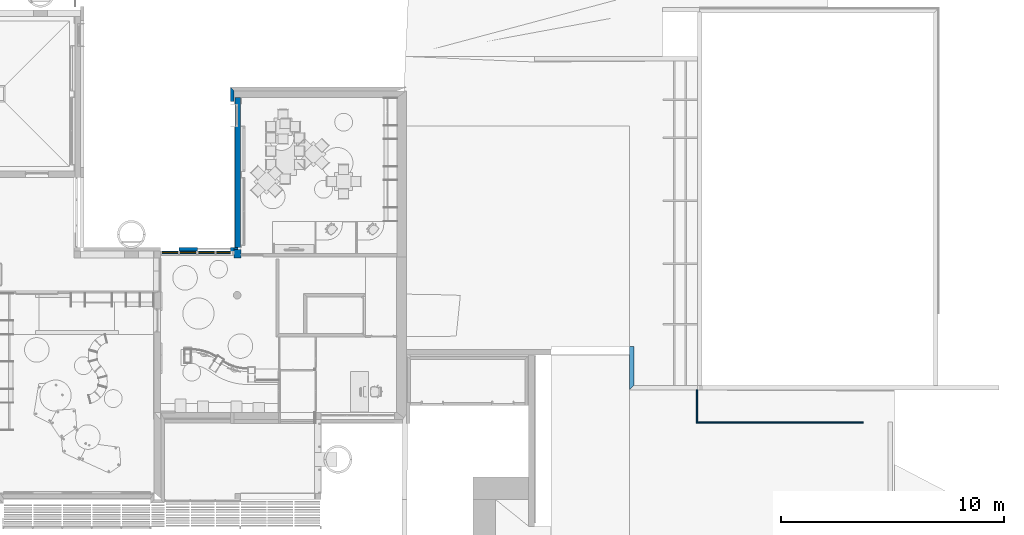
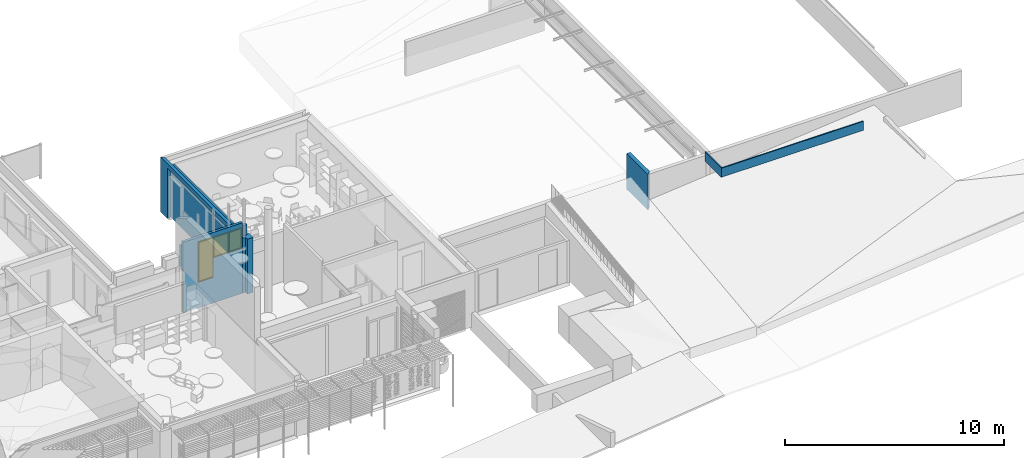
# One storey, part 26 of 64: 8 walls, 4 windows, 6 openings.
"""IFC2X3 building model written with IfcOpenShell, lengths in metres."""

from ifc_helpers import new_model, entity, si_unit, converted_unit, derived_unit, direction, frame, frame_2d, origin, origin_2d_with_axis, place, context, subcontext, project, spatial, polyline, rectangle, outline, extrude, source, transform, mapped, material, material_list, layer, layer_set, layer_usage, type_object, type_shapes, element, fill, save


model = new_model("IFC2X3")

# Units and contexts
model_context = context("Model", 3, precision=1e-05, world=origin(), true_north=direction((6.123031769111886e-17, 1.0)))
body_context = subcontext(model_context, "Body", "Model", "MODEL_VIEW")
ifc_project = project(units=[si_unit("LENGTHUNIT", "METRE"), si_unit("AREAUNIT", "SQUARE_METRE"), si_unit("VOLUMEUNIT", "CUBIC_METRE"), converted_unit("PLANEANGLEUNIT", "DEGREE", entity("IfcRatioMeasure", 0.017453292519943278), si_unit("PLANEANGLEUNIT", "RADIAN"), dimensions=[0, 0, 0, 0, 0, 0, 0]), si_unit("MASSUNIT", "GRAM", prefix="KILO"), derived_unit("MASSDENSITYUNIT", [(si_unit("MASSUNIT", "GRAM", prefix="KILO"), 1), (si_unit("LENGTHUNIT", "METRE"), -3)]), derived_unit("MOMENTOFINERTIAUNIT", [(si_unit("LENGTHUNIT", "METRE"), 4)]), si_unit("TIMEUNIT", "SECOND"), si_unit("FREQUENCYUNIT", "HERTZ"), si_unit("THERMODYNAMICTEMPERATUREUNIT", "DEGREE_CELSIUS"), derived_unit("THERMALTRANSMITTANCEUNIT", [(si_unit("MASSUNIT", "GRAM", prefix="KILO"), 1), (si_unit("THERMODYNAMICTEMPERATUREUNIT", "KELVIN"), -1), (si_unit("TIMEUNIT", "SECOND"), -3)]), derived_unit("THERMALCONDUCTANCEUNIT", [(si_unit("MASSUNIT", "GRAM", prefix="KILO"), 1), (si_unit("LENGTHUNIT", "METRE"), 1), (si_unit("THERMODYNAMICTEMPERATUREUNIT", "KELVIN"), -1), (si_unit("TIMEUNIT", "SECOND"), -3)]), derived_unit("VOLUMETRICFLOWRATEUNIT", [(si_unit("LENGTHUNIT", "METRE"), 3), (si_unit("TIMEUNIT", "SECOND"), -1)]), derived_unit("MASSFLOWRATEUNIT", [(si_unit("MASSUNIT", "GRAM", prefix="KILO"), 1), (si_unit("TIMEUNIT", "SECOND"), -1)]), derived_unit("ROTATIONALFREQUENCYUNIT", [(si_unit("TIMEUNIT", "SECOND"), -1)]), si_unit("ELECTRICCURRENTUNIT", "AMPERE"), si_unit("ELECTRICVOLTAGEUNIT", "VOLT"), si_unit("POWERUNIT", "WATT"), si_unit("FORCEUNIT", "NEWTON", prefix="KILO"), si_unit("ILLUMINANCEUNIT", "LUX"), si_unit("LUMINOUSFLUXUNIT", "LUMEN"), si_unit("LUMINOUSINTENSITYUNIT", "CANDELA"), derived_unit("USERDEFINED", [(si_unit("MASSUNIT", "GRAM", prefix="KILO"), -1), (si_unit("LENGTHUNIT", "METRE"), -2), (si_unit("TIMEUNIT", "SECOND"), 3), (si_unit("LUMINOUSFLUXUNIT", "LUMEN"), 1)]), derived_unit("USERDEFINED", [(si_unit("MASSUNIT", "GRAM", prefix="KILO"), 1), (si_unit("LENGTHUNIT", "METRE"), 3), (si_unit("TIMEUNIT", "SECOND"), -3), (si_unit("ELECTRICCURRENTUNIT", "AMPERE"), -2)]), derived_unit("USERDEFINED", [(si_unit("LENGTHUNIT", "METRE"), 2), (si_unit("TIMEUNIT", "SECOND"), -2)]), derived_unit("SOUNDPOWERUNIT", [(si_unit("MASSUNIT", "GRAM", prefix="KILO"), 1), (si_unit("LENGTHUNIT", "METRE"), 2), (si_unit("TIMEUNIT", "SECOND"), -3)]), derived_unit("SOUNDPRESSUREUNIT", [(si_unit("MASSUNIT", "GRAM", prefix="KILO"), 1), (si_unit("LENGTHUNIT", "METRE"), -1), (si_unit("TIMEUNIT", "SECOND"), -2)]), derived_unit("LINEARVELOCITYUNIT", [(si_unit("LENGTHUNIT", "METRE"), 1), (si_unit("TIMEUNIT", "SECOND"), -1)]), si_unit("PRESSUREUNIT", "PASCAL"), derived_unit("USERDEFINED", [(si_unit("LENGTHUNIT", "METRE"), -2), (si_unit("MASSUNIT", "GRAM", prefix="KILO"), 1), (si_unit("TIMEUNIT", "SECOND"), -2)]), derived_unit("LINEARFORCEUNIT", [(si_unit("MASSUNIT", "GRAM", prefix="KILO"), 1), (si_unit("LENGTHUNIT", "METRE"), 1), (si_unit("TIMEUNIT", "SECOND"), -2), (si_unit("LENGTHUNIT", "METRE"), -1)]), derived_unit("PLANARFORCEUNIT", [(si_unit("MASSUNIT", "GRAM", prefix="KILO"), 1), (si_unit("LENGTHUNIT", "METRE"), 1), (si_unit("TIMEUNIT", "SECOND"), -2), (si_unit("LENGTHUNIT", "METRE"), -2)]), derived_unit("SPECIFICHEATCAPACITYUNIT", [(si_unit("LENGTHUNIT", "METRE"), 2), (si_unit("TIMEUNIT", "SECOND"), -2), (si_unit("THERMODYNAMICTEMPERATUREUNIT", "KELVIN"), -1)]), derived_unit("VAPORPERMEABILITYUNIT", [(si_unit("TIMEUNIT", "SECOND"), 1), (si_unit("LENGTHUNIT", "METRE"), -1)]), derived_unit("DYNAMICVISCOSITYUNIT", [(si_unit("MASSUNIT", "GRAM", prefix="KILO"), 1), (si_unit("LENGTHUNIT", "METRE"), -1), (si_unit("TIMEUNIT", "SECOND"), -1)]), derived_unit("THERMALEXPANSIONCOEFFICIENTUNIT", [(si_unit("THERMODYNAMICTEMPERATUREUNIT", "KELVIN"), -1)])], contexts=[model_context])

# Site, building, storey
site_placement = place(None, origin())
site = spatial("IfcSite", under=ifc_project, at=site_placement, Name="Default", CompositionType="ELEMENT")
building_placement = place(site_placement, origin())
building = spatial("IfcBuilding", under=site, at=building_placement, CompositionType="ELEMENT")
storey_placement = place(building_placement, origin())
storey = spatial("IfcBuildingStorey", under=building, at=storey_placement, Name="REZ-DE-CHAUSSÉE", CompositionType="ELEMENT", Elevation=0.0)

# Wall
ifc_material_1 = material(Name="Appareillage - Pierre taillé")
ifc_layer_1 = layer(ifc_material_1, 0.29999999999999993)
ifc_layer_set_1 = layer_set([ifc_layer_1], Name="Mur de base:Struct. - Pierre 300")
ifc_layer_usage_1 = layer_usage(ifc_layer_set_1, "AXIS2", "NEGATIVE", 0.14999999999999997)
wall_type_1 = type_object("IfcWallType", Name="Mur de base:Struct. - Pierre 300", PredefinedType="STANDARD", material=ifc_layer_set_1)
wall_1_placement = place(storey_placement, frame((120.83075227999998, 14.997209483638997, 0.0), z_axis=(0.0, 0.0, 1.0), x_axis=(0.0, 1.0, 0.0)))
element("IfcWallStandardCase", 1, at=wall_1_placement, inside=storey, type_object=wall_type_1, material=ifc_layer_usage_1, Name="MurExt-003", ObjectType="Mur de base:Struct. - Pierre 300", context=body_context, shape_type="SweptSolid", body=[
    extrude(rectangle(XDim=0.39000000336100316, YDim=0.3000000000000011, at=frame_2d((0.19500000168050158, 0.0), x_axis=(-1.0, 0.0))), origin(), (0.0, 0.0, 1.0), 3.06),
])

# Wall, opening
ifc_material_2 = material(Name="Enduit - Jaune nature")
ifc_layer_2 = layer(ifc_material_2, 0.02)
ifc_material_3 = material(Name="Isolation - Fibre de verre")
ifc_layer_3 = layer(ifc_material_3, 0.14)
ifc_layer_set_2 = layer_set([ifc_layer_2, ifc_layer_3], Name="Mur de base:ABA ITE 140 + enduit 160")
ifc_layer_usage_2 = layer_usage(ifc_layer_set_2, "AXIS2", "NEGATIVE", 0.08)
wall_type_2 = type_object("IfcWallType", Name="Mur de base:ABA ITE 140 + enduit 160", PredefinedType="STANDARD", material=ifc_layer_set_2)
wall_2_placement = place(storey_placement, frame((120.60075227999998, 15.167209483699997, 0.0), z_axis=(0.0, 0.0, 1.0), x_axis=(0.0, 1.0, 0.0)))
wall_2 = element("IfcWallStandardCase", 2, at=wall_2_placement, inside=storey, type_object=wall_type_2, material=ifc_layer_usage_2, Name="MurExt-011", ObjectType="Mur de base:ABA ITE 140 + enduit 160", context=body_context, shape_type="SweptSolid", body=[
    extrude(outline(polyline([(0.0, -0.07999999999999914), (7.3300000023, -0.07999999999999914), (7.490000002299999, 0.07999999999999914), (0.0, 0.07999999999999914), (0.0, -0.07999999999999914)])), origin(), (0.0, 0.0, 1.0), 3.06),
])
opening_1_placement = place(wall_2_placement, origin())
element("IfcOpeningElement", 3, at=opening_1_placement, cuts=wall_2, Name="MurExt-011", ObjectType="Opening", context=body_context, shape_type="SweptSolid", body=[
    extrude(rectangle(XDim=2.8, YDim=6.560000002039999, at=origin_2d_with_axis()), frame((3.580000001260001, -0.07999999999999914, 1.4), z_axis=(0.0, 1.0, 0.0), x_axis=(0.0, 0.0, 1.0)), (0.0, 0.0, 1.0), 0.31999999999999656),
])

# Wall, openings, windows
wall_3_placement = place(storey_placement, frame((117.38075227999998, 15.387209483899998, 0.0)))
wall_3 = element("IfcWallStandardCase", 4, at=wall_3_placement, inside=storey, type_object=wall_type_2, material=ifc_layer_usage_2, Name="MurExt-022", ObjectType="Mur de base:ABA ITE 140 + enduit 160", context=body_context, shape_type="SweptSolid", body=[
    extrude(outline(polyline([(0.0, -0.07999999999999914), (3.1399999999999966, -0.07999999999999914), (3.1399999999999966, 0.07999999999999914), (0.0, 0.07999999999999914), (0.0, -0.07999999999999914)]), holes=[polyline([(3.464999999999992, 0.07999999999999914), (3.464999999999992, -0.07999999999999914), (3.299999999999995, -0.07999999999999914), (3.299999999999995, 0.07999999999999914), (3.464999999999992, 0.07999999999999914)])]), origin(), (0.0, 0.0, 1.0), 3.6299999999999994),
])
opening_2_placement = place(wall_3_placement, frame((-117.38075227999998, -15.387209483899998, 0.0)))
element("IfcOpeningElement", 5, at=opening_2_placement, cuts=wall_3, Name="MurExt-022", ObjectType="Opening", context=body_context, shape_type="SweptSolid", body=[
    extrude(rectangle(XDim=2.45, YDim=1.494999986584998, at=frame_2d((0.0, 8.659739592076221e-15), x_axis=(1.0, 0.0))), frame((119.77325227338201, 15.225609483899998, 1.225), z_axis=(0.0, 1.0, 0.0), x_axis=(0.0, 0.0, -1.0)), (0.0, 0.0, 1.0), 0.32320000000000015),
])
opening_3_placement = place(wall_3_placement, frame((-117.38075227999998, -15.387209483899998, 0.0)))
opening_3 = element("IfcOpeningElement", 6, at=opening_3_placement, cuts=wall_3, Name="MurExt-022", ObjectType="Opening", context=body_context, shape_type="SweptSolid", body=[
    extrude(rectangle(XDim=2.45, YDim=0.8349999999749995, at=frame_2d((0.0, 8.659739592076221e-15), x_axis=(1.0, 0.0))), frame((117.79825227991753, 15.225609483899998, 1.225), z_axis=(0.0, 1.0, 0.0), x_axis=(0.0, 0.0, -1.0)), (0.0, 0.0, 1.0), 0.32320000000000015),
])
opening_4_placement = place(wall_3_placement, frame((-117.38075227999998, -15.387209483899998, 0.0)))
opening_4 = element("IfcOpeningElement", 7, at=opening_4_placement, cuts=wall_3, Name="MurExt-022", ObjectType="Opening", context=body_context, shape_type="SweptSolid", body=[
    extrude(rectangle(XDim=1.1799999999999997, YDim=0.6849999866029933, at=frame_2d((-2.7755575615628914e-16, -8.659739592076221e-15), x_axis=(1.0, 0.0))), frame((120.17825227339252, 15.225609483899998, 3.0399999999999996), z_axis=(0.0, 1.0, 0.0), x_axis=(0.0, 0.0, -1.0)), (0.0, 0.0, 1.0), 0.32320000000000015),
])
opening_5_placement = place(wall_3_placement, frame((-117.38075227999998, -15.387209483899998, 0.0)))
opening_5 = element("IfcOpeningElement", 8, at=opening_5_placement, cuts=wall_3, Name="MurExt-022", ObjectType="Opening", context=body_context, shape_type="SweptSolid", body=[
    extrude(rectangle(XDim=1.1799999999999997, YDim=0.8100000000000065, at=frame_2d((-2.7755575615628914e-16, 8.659739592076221e-15), x_axis=(1.0, 0.0))), frame((119.4307522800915, 15.225609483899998, 3.0399999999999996), z_axis=(0.0, 1.0, 0.0), x_axis=(0.0, 0.0, -1.0)), (0.0, 0.0, 1.0), 0.32320000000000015),
])
opening_6_placement = place(wall_3_placement, frame((-117.38075227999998, -15.387209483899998, 0.0)))
opening_6 = element("IfcOpeningElement", 9, at=opening_6_placement, cuts=wall_3, Name="MurExt-022", ObjectType="Opening", context=body_context, shape_type="SweptSolid", body=[
    extrude(rectangle(XDim=2.2799999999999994, YDim=0.8100000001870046, at=frame_2d((1.1102230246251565e-16, 0.0), x_axis=(1.0, 0.0))), frame((118.620752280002, 15.225609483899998, 2.49), z_axis=(0.0, 1.0, 0.0), x_axis=(0.0, 0.0, -1.0)), (0.0, 0.0, 1.0), 0.32320000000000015),
])
ifc_material_4 = material(Name="Transp. - Verre clair (rapide)")
ifc_material_5 = material(Name="Peinture - Anthracite")
ifc_material_list = material_list([ifc_material_4, ifc_material_5])
window_style_1 = type_object("IfcWindowStyle", Name="Fen-004", ConstructionType="NOTDEFINED", OperationType="NOTDEFINED", ParameterTakesPrecedence=False, Sizeable=False, material=ifc_material_list)
shared_shape_1 = source(origin(), body_context, "Body", "SweptSolid", [
    extrude(rectangle(XDim=0.7749999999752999, YDim=0.009999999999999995, at=frame_2d((-7.502332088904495e-14, 1.691355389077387e-17), x_axis=(1.0, 0.0))), frame((0.4174999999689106, -0.2966000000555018, 0.0601)), (0.0, 0.0, 1.0), 2.3398999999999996),
    extrude(outline(polyline([(-1.225, -0.4174999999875), (1.225, -0.4174999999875), (1.225, 0.4174999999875), (-1.225, 0.4174999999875), (-1.225, -0.4174999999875)]), holes=[polyline([(1.165, 0.3874999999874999), (1.1650000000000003, -0.3874999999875), (-1.1749999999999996, -0.38749999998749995), (-1.1749999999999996, 0.3874999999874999), (1.165, 0.3874999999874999)])]), frame((0.41749999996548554, -0.3216000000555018, 1.225), z_axis=(0.0, 1.0, 0.0), x_axis=(0.0, 0.0, -1.0)), (0.0, 0.0, 1.0), 0.05),
])
type_shapes(window_style_1, [shared_shape_1])
window_1_placement = place(opening_3_placement, frame((117.38075227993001, 15.5488094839, 0.0)))
window_1 = element("IfcWindow", 10, at=window_1_placement, inside=storey, type_object=window_style_1, material=ifc_material_list, Name="Fen-004 53039:Fen-004 53039", ObjectType="Fen-004 53039:Fen-004 53039", OverallHeight=2.45, OverallWidth=0.8349999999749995, context=body_context, shape_type="MappedRepresentation", body=[
    mapped(shared_shape_1, transform((0.0, 0.0, 0.0), scale=1.0)),
])
fill(opening_3, window_1)
window_style_2 = type_object("IfcWindowStyle", Name="Fen-004", ConstructionType="NOTDEFINED", OperationType="NOTDEFINED", ParameterTakesPrecedence=False, Sizeable=False, material=ifc_material_list)
shared_shape_2 = source(origin(), body_context, "Body", "SweptSolid", [
    extrude(rectangle(XDim=0.6249999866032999, YDim=0.010000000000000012, at=frame_2d((-7.502332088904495e-14, 8.239936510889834e-18), x_axis=(1.0, 0.0))), frame((0.34249999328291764, -0.2966000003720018, 0.0601)), (0.0, 0.0, 1.0), 1.0698999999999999),
    extrude(outline(polyline([(-0.59, -0.3424999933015), (0.59, -0.3424999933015), (0.59, 0.3424999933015), (-0.59, 0.3424999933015), (-0.59, -0.3424999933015)]), holes=[polyline([(0.53, 0.3124999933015), (0.53, -0.3124999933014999), (-0.5399999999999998, -0.31249999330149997), (-0.5399999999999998, 0.3124999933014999), (0.53, 0.3124999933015)])]), frame((0.3424999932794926, -0.3216000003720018, 0.59), z_axis=(0.0, 1.0, 0.0), x_axis=(0.0, 0.0, -1.0)), (0.0, 0.0, 1.0), 0.05),
])
type_shapes(window_style_2, [shared_shape_2])
window_2_placement = place(opening_4_placement, frame((119.83575228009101, 15.5488094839, 2.45)))
window_2 = element("IfcWindow", 11, at=window_2_placement, inside=storey, type_object=window_style_2, material=ifc_material_list, Name="Fen-004 53221:Fen-004 53221", ObjectType="Fen-004 53221:Fen-004 53221", OverallHeight=1.1799999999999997, OverallWidth=0.6849999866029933, context=body_context, shape_type="MappedRepresentation", body=[
    mapped(shared_shape_2, transform((0.0, 0.0, 0.0), scale=1.0)),
])
fill(opening_4, window_2)
window_style_3 = type_object("IfcWindowStyle", Name="Fen-004", ConstructionType="NOTDEFINED", OperationType="NOTDEFINED", ParameterTakesPrecedence=False, Sizeable=False, material=ifc_material_list)
shared_shape_3 = source(origin(), body_context, "Body", "SweptSolid", [
    extrude(rectangle(XDim=0.7500000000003, YDim=0.009999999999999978, at=frame_2d((-7.49678097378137e-14, 0.0), x_axis=(1.0, 0.0))), frame((0.40499999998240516, -0.29660000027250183, 0.0601)), (0.0, 0.0, 1.0), 1.0698999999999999),
    extrude(outline(polyline([(-0.59, -0.40499999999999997), (0.59, -0.40499999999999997), (0.59, 0.40499999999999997), (-0.59, 0.40499999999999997), (-0.59, -0.40499999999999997)]), holes=[polyline([(0.53, 0.37500000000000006), (0.53, -0.37500000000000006), (-0.5399999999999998, -0.3750000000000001), (-0.5399999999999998, 0.37500000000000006), (0.53, 0.37500000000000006)])]), frame((0.4049999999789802, -0.32160000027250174, 0.59), z_axis=(0.0, 1.0, 0.0), x_axis=(0.0, 0.0, -1.0)), (0.0, 0.0, 1.0), 0.04999999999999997),
])
type_shapes(window_style_3, [shared_shape_3])
window_3_placement = place(opening_5_placement, frame((119.02575228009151, 15.5488094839, 2.45)))
window_3 = element("IfcWindow", 12, at=window_3_placement, inside=storey, type_object=window_style_3, material=ifc_material_list, Name="Fen-004 53403:Fen-004 53403", ObjectType="Fen-004 53403:Fen-004 53403", OverallHeight=1.1799999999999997, OverallWidth=0.8100000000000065, context=body_context, shape_type="MappedRepresentation", body=[
    mapped(shared_shape_3, transform((0.0, 0.0, 0.0), scale=1.0)),
])
fill(opening_5, window_3)
window_style_4 = type_object("IfcWindowStyle", Name="Fen-004", ConstructionType="NOTDEFINED", OperationType="NOTDEFINED", ParameterTakesPrecedence=False, Sizeable=False, material=ifc_material_list)
shared_shape_4 = source(origin(), body_context, "Body", "SweptSolid", [
    extrude(rectangle(XDim=0.7500000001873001, YDim=0.01000000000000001, at=frame_2d((-7.494005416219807e-14, 0.0), x_axis=(1.0, 0.0))), frame((0.40500000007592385, -0.2966000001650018, 0.0601)), (0.0, 0.0, 1.0), 2.1699),
    extrude(outline(polyline([(-1.14, -0.4050000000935), (1.14, -0.4050000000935), (1.14, 0.4050000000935), (-1.14, 0.4050000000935), (-1.14, -0.4050000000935)]), holes=[polyline([(1.0799999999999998, 0.37500000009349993), (1.0799999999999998, -0.37500000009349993), (-1.09, -0.3750000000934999), (-1.09, 0.37500000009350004), (1.0799999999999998, 0.37500000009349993)])]), frame((0.40500000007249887, -0.3216000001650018, 1.14), z_axis=(0.0, 1.0, 0.0), x_axis=(0.0, 0.0, -1.0)), (0.0, 0.0, 1.0), 0.05),
])
type_shapes(window_style_4, [shared_shape_4])
window_4_placement = place(opening_6_placement, frame((118.21575227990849, 15.5488094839, 1.35)))
window_4 = element("IfcWindow", 13, at=window_4_placement, inside=storey, type_object=window_style_4, material=ifc_material_list, Name="Fen-004 53585:Fen-004 53585", ObjectType="Fen-004 53585:Fen-004 53585", OverallHeight=2.28, OverallWidth=0.8100000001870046, context=body_context, shape_type="MappedRepresentation", body=[
    mapped(shared_shape_4, transform((0.0, 0.0, 0.0), scale=1.0)),
])
fill(opening_6, window_4)

# Walls
ifc_material_6 = material(Name="Béton - Parpaing (Blocs)")
ifc_layer_4 = layer(ifc_material_6, 0.2)
ifc_layer_set_3 = layer_set([ifc_layer_4], Name="Mur de base:Struct. - Parpaing béton 200")
ifc_layer_usage_3 = layer_usage(ifc_layer_set_3, "AXIS2", "NEGATIVE", 0.1)
wall_type_3 = type_object("IfcWallType", Name="Mur de base:Struct. - Parpaing béton 200", PredefinedType="STANDARD", material=ifc_layer_set_3)
wall_4_placement = place(storey_placement, frame((138.50075227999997, 9.087209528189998, 2.05), z_axis=(0.0, 0.0, 1.0), x_axis=(0.0, 1.0, 0.0)))
element("IfcWallStandardCase", 14, at=wall_4_placement, inside=storey, type_object=wall_type_3, material=ifc_layer_usage_3, Name="MurExt-021", ObjectType="Mur de base:Struct. - Parpaing béton 200", context=body_context, shape_type="SweptSolid", body=[
    extrude(outline(polyline([(1.95000002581, -0.10000000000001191), (1.95000002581, 0.0999999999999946), (0.0, 0.0999999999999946), (0.20000000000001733, -0.10000000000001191), (1.95000002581, -0.10000000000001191)])), origin(), (0.0, 0.0, 1.0), 2.0),
])
ifc_material_7 = material(Name="Bois - Pin granuleux horizontal")
ifc_layer_5 = layer(ifc_material_7, 0.031999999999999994)
ifc_material_8 = material(Name="Air - Vide d'air")
ifc_layer_6 = layer(ifc_material_8, 0.041)
ifc_material_9 = material(Name="Bois - Panneaux de particules")
ifc_layer_7 = layer(ifc_material_9, 0.022)
ifc_layer_8 = layer(ifc_material_3, 0.12)
ifc_layer_9 = layer(ifc_material_9, 0.022)
ifc_material_10 = material(Name="Plâtre - Plaques de plâtre")
ifc_layer_10 = layer(ifc_material_10, 0.013)
ifc_layer_set_4 = layer_set([ifc_layer_5, ifc_layer_6, ifc_layer_7, ifc_layer_8, ifc_layer_9, ifc_layer_10], Name="Mur de base:ABA MOB bardage 250")
ifc_layer_usage_4 = layer_usage(ifc_layer_set_4, "AXIS2", "NEGATIVE", 0.12499999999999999)
wall_type_4 = type_object("IfcWallType", Name="Mur de base:ABA MOB bardage 250", PredefinedType="STANDARD", material=ifc_layer_set_4)
wall_5_placement = place(storey_placement, frame((120.84575228, 15.467209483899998, 0.0), z_axis=(0.0, 0.0, 1.0), x_axis=(0.0, 1.0, 0.0)))
element("IfcWallStandardCase", 15, at=wall_5_placement, inside=storey, type_object=wall_type_4, material=ifc_layer_usage_4, Name="MurExt-010", ObjectType="Mur de base:ABA MOB bardage 250", context=body_context, shape_type="SweptSolid", body=[
    extrude(rectangle(XDim=6.720000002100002, YDim=0.2500000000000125, at=frame_2d((3.360000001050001, 0.0), x_axis=(-1.0, 0.0))), origin(), (0.0, 0.0, 1.0), 2.8),
])
ifc_layer_11 = layer(ifc_material_2, 0.022)
ifc_layer_12 = layer(ifc_material_3, 0.04)
ifc_layer_set_5 = layer_set([ifc_layer_11, ifc_layer_12], Name="Mur de base:ABA ITE enduit soubassements 62")
ifc_layer_usage_5 = layer_usage(ifc_layer_set_5, "AXIS2", "NEGATIVE", 0.031)
wall_type_5 = type_object("IfcWallType", Name="Mur de base:ABA ITE enduit soubassements 62", PredefinedType="STANDARD", material=ifc_layer_set_5)
wall_6_placement = place(storey_placement, frame((141.43175227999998, 7.587209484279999, 3.7499999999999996), z_axis=(0.0, 0.0, 1.0), x_axis=(0.0, 1.0, 0.0)))
element("IfcWallStandardCase", 16, at=wall_6_placement, inside=storey, type_object=wall_type_5, material=ifc_layer_usage_5, Name="MurExt-024", ObjectType="Mur de base:ABA ITE enduit soubassements 62", context=body_context, shape_type="SweptSolid", body=[
    extrude(outline(polyline([(1.4990000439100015, -0.03100000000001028), (1.4990000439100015, 0.030999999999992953), (0.0, 0.030999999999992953), (0.062000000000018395, -0.03100000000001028), (1.4990000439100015, -0.03100000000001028)])), origin(), (0.0, 0.0, 1.0), 0.5199999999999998),
])
wall_7_placement = place(storey_placement, frame((148.90075231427, 7.618209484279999, 3.7499999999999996), z_axis=(0.0, 0.0, 1.0), x_axis=(-1.0, 0.0, 0.0)))
element("IfcWallStandardCase", 17, at=wall_7_placement, inside=storey, type_object=wall_type_5, material=ifc_layer_usage_5, Name="MurExt-024", ObjectType="Mur de base:ABA ITE enduit soubassements 62", context=body_context, shape_type="SweptSolid", body=[
    extrude(outline(polyline([(7.438000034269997, -0.03099999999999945), (7.500000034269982, 0.031000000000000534), (0.0, 0.031000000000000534), (0.0, -0.03099999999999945), (7.438000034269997, -0.03099999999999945)])), origin(), (0.0, 0.0, 1.0), 0.5),
])
ifc_layer_13 = layer(ifc_material_7, 0.14)
ifc_layer_set_6 = layer_set([ifc_layer_13], Name="Mur de base:Bois - Massif 01 140")
ifc_layer_usage_6 = layer_usage(ifc_layer_set_6, "AXIS2", "NEGATIVE", 0.07)
wall_type_6 = type_object("IfcWallType", Name="Mur de base:Bois - Massif 01 140", PredefinedType="STANDARD", material=ifc_layer_set_6)
wall_8_placement = place(storey_placement, frame((117.38075227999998, 15.2372094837, 0.0)))
element("IfcWallStandardCase", 18, at=wall_8_placement, inside=storey, type_object=wall_type_6, material=ifc_layer_usage_6, Name="MurExt-007", ObjectType="Mur de base:Bois - Massif 01 140", context=body_context, shape_type="SweptSolid", body=[
    extrude(rectangle(XDim=3.1399999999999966, YDim=0.1399999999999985, at=frame_2d((1.5699999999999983, 0.0), x_axis=(-1.0, 0.0))), origin(), (0.0, 0.0, 1.0), 3.93),
])

save(model, "model.ifc")
